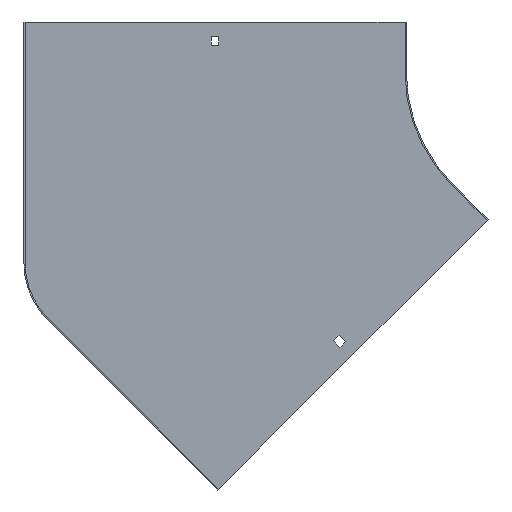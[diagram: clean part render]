
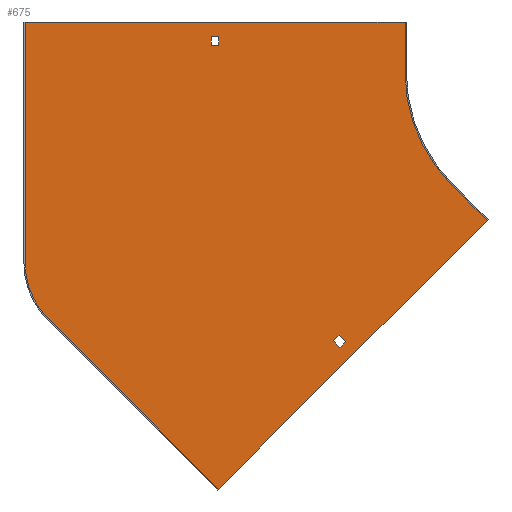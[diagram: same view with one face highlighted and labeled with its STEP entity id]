
A CAD part, front view. The second image highlights one B-rep face of the part: STEP entity #675.
In plain terms, the highlighted planar face has unit normal (0, -1, 0).
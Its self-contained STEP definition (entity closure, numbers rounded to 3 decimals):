
#1 = ORIENTED_EDGE ( 'NONE', *, *, #242, .T. ) ;
#6 = ORIENTED_EDGE ( 'NONE', *, *, #562, .F. ) ;
#11 = DIRECTION ( 'NONE',  ( 1., 0., 0. ) ) ;
#13 = LINE ( 'NONE', #352, #202 ) ;
#17 = VECTOR ( 'NONE', #602, 1000. ) ;
#24 = DIRECTION ( 'NONE',  ( -0.707, 0., 0.707 ) ) ;
#26 = LINE ( 'NONE', #222, #654 ) ;
#29 = CARTESIAN_POINT ( 'NONE',  ( -425., -1., 40. ) ) ;
#46 = EDGE_CURVE ( 'NONE', #259, #260, #193, .T. ) ;
#47 = VECTOR ( 'NONE', #24, 1000. ) ;
#51 = CARTESIAN_POINT ( 'NONE',  ( -172.181, -1., -212.486 ) ) ;
#57 = VERTEX_POINT ( 'NONE', #831 ) ;
#67 = VERTEX_POINT ( 'NONE', #432 ) ;
#69 = VERTEX_POINT ( 'NONE', #427 ) ;
#72 = EDGE_CURVE ( 'NONE', #528, #130, #215, .T. ) ;
#75 = LINE ( 'NONE', #261, #693 ) ;
#87 = LINE ( 'NONE', #621, #790 ) ;
#109 = VECTOR ( 'NONE', #114, 1000. ) ;
#114 = DIRECTION ( 'NONE',  ( 0., 0., -1. ) ) ;
#125 = ORIENTED_EDGE ( 'NONE', *, *, #126, .F. ) ;
#126 = EDGE_CURVE ( 'NONE', #319, #791, #687, .T. ) ;
#130 = VERTEX_POINT ( 'NONE', #500 ) ;
#131 = DIRECTION ( 'NONE',  ( 0., -1., 0. ) ) ;
#132 = ORIENTED_EDGE ( 'NONE', *, *, #46, .F. ) ;
#135 = ORIENTED_EDGE ( 'NONE', *, *, #647, .F. ) ;
#139 = ORIENTED_EDGE ( 'NONE', *, *, #351, .F. ) ;
#147 = LINE ( 'NONE', #476, #491 ) ;
#153 = DIRECTION ( 'NONE',  ( 0., -1., 0. ) ) ;
#158 = PLANE ( 'NONE',  #546 ) ;
#164 = CARTESIAN_POINT ( 'NONE',  ( -177.13, -1., -207.536 ) ) ;
#176 = ORIENTED_EDGE ( 'NONE', *, *, #72, .T. ) ;
#193 = LINE ( 'NONE', #466, #368 ) ;
#199 = CARTESIAN_POINT ( 'NONE',  ( -272., -1., 21.5 ) ) ;
#201 = CARTESIAN_POINT ( 'NONE',  ( -125., -1., 0. ) ) ;
#202 = VECTOR ( 'NONE', #804, 1000. ) ;
#203 = ORIENTED_EDGE ( 'NONE', *, *, #558, .F. ) ;
#215 = LINE ( 'NONE', #436, #254 ) ;
#221 = VECTOR ( 'NONE', #11, 1000. ) ;
#222 = CARTESIAN_POINT ( 'NONE',  ( -125., -1., 40. ) ) ;
#223 = DIRECTION ( 'NONE',  ( 0., 0., 1. ) ) ;
#224 = FACE_BOUND ( 'NONE', #331, .T. ) ;
#225 = VECTOR ( 'NONE', #826, 1000. ) ;
#228 = CARTESIAN_POINT ( 'NONE',  ( -272.236, -1., -328.805 ) ) ;
#230 = FACE_BOUND ( 'NONE', #326, .T. ) ;
#231 = AXIS2_PLACEMENT_3D ( 'NONE', #283, #131, #399 ) ;
#235 = CARTESIAN_POINT ( 'NONE',  ( 0., -1., 0. ) ) ;
#242 = EDGE_CURVE ( 'NONE', #803, #528, #580, .T. ) ;
#253 = ORIENTED_EDGE ( 'NONE', *, *, #401, .T. ) ;
#254 = VECTOR ( 'NONE', #823, 1000. ) ;
#259 = VERTEX_POINT ( 'NONE', #649 ) ;
#260 = VERTEX_POINT ( 'NONE', #51 ) ;
#261 = CARTESIAN_POINT ( 'NONE',  ( 0., -1., 28.5 ) ) ;
#279 = DIRECTION ( 'NONE',  ( -0.707, 0., -0.707 ) ) ;
#283 = CARTESIAN_POINT ( 'NONE',  ( 0., -1., 0. ) ) ;
#284 = CARTESIAN_POINT ( 'NONE',  ( -181.373, -1., -211.778 ) ) ;
#291 = CIRCLE ( 'NONE', #231, 125. ) ;
#310 = CARTESIAN_POINT ( 'NONE',  ( -272., -1., 28.5 ) ) ;
#319 = VERTEX_POINT ( 'NONE', #818 ) ;
#322 = CARTESIAN_POINT ( 'NONE',  ( -406.694, -1., -194.347 ) ) ;
#326 = EDGE_LOOP ( 'NONE', ( #740, #132, #404, #139 ) ) ;
#331 = EDGE_LOOP ( 'NONE', ( #644, #1, #176, #253 ) ) ;
#333 = LINE ( 'NONE', #741, #17 ) ;
#351 = EDGE_CURVE ( 'NONE', #702, #383, #87, .T. ) ;
#352 = CARTESIAN_POINT ( 'NONE',  ( -59.397, -1., -115.966 ) ) ;
#357 = CARTESIAN_POINT ( 'NONE',  ( -88.388, -1., -88.388 ) ) ;
#368 = VECTOR ( 'NONE', #397, 1000. ) ;
#371 = EDGE_CURVE ( 'NONE', #260, #702, #486, .T. ) ;
#375 = EDGE_CURVE ( 'NONE', #791, #717, #13, .T. ) ;
#383 = VERTEX_POINT ( 'NONE', #284 ) ;
#390 = CARTESIAN_POINT ( 'NONE',  ( -196.576, -1., -196.576 ) ) ;
#393 = VERTEX_POINT ( 'NONE', #201 ) ;
#397 = DIRECTION ( 'NONE',  ( 0.707, 0., 0.707 ) ) ;
#399 = DIRECTION ( 'NONE',  ( 0., 0., -1. ) ) ;
#401 = EDGE_CURVE ( 'NONE', #130, #69, #147, .T. ) ;
#404 = ORIENTED_EDGE ( 'NONE', *, *, #839, .F. ) ;
#416 = CARTESIAN_POINT ( 'NONE',  ( -426., -1., 40. ) ) ;
#421 = DIRECTION ( 'NONE',  ( 0., 1., 0. ) ) ;
#424 = DIRECTION ( 'NONE',  ( 0., 0., -1. ) ) ;
#427 = CARTESIAN_POINT ( 'NONE',  ( -278., -1., 28.5 ) ) ;
#431 = VECTOR ( 'NONE', #564, 1000. ) ;
#432 = CARTESIAN_POINT ( 'NONE',  ( -125., -1., 40. ) ) ;
#434 = FACE_OUTER_BOUND ( 'NONE', #729, .T. ) ;
#436 = CARTESIAN_POINT ( 'NONE',  ( 0., -1., 21.5 ) ) ;
#443 = CARTESIAN_POINT ( 'NONE',  ( -272.236, -1., -328.805 ) ) ;
#458 = VECTOR ( 'NONE', #657, 1000. ) ;
#466 = CARTESIAN_POINT ( 'NONE',  ( 20.153, -1., -20.153 ) ) ;
#467 = EDGE_CURVE ( 'NONE', #656, #67, #808, .T. ) ;
#476 = CARTESIAN_POINT ( 'NONE',  ( -278., -1., 0. ) ) ;
#479 = CARTESIAN_POINT ( 'NONE',  ( -362.5, -1., -150.152 ) ) ;
#486 = LINE ( 'NONE', #749, #47 ) ;
#489 = DIRECTION ( 'NONE',  ( 1., 0., 0. ) ) ;
#491 = VECTOR ( 'NONE', #223, 1000. ) ;
#500 = CARTESIAN_POINT ( 'NONE',  ( -278., -1., 21.5 ) ) ;
#516 = AXIS2_PLACEMENT_3D ( 'NONE', #479, #421, #817 ) ;
#520 = EDGE_CURVE ( 'NONE', #845, #57, #754, .T. ) ;
#528 = VERTEX_POINT ( 'NONE', #199 ) ;
#546 = AXIS2_PLACEMENT_3D ( 'NONE', #235, #153, #624 ) ;
#552 = EDGE_CURVE ( 'NONE', #69, #803, #75, .T. ) ;
#558 = EDGE_CURVE ( 'NONE', #393, #319, #291, .T. ) ;
#562 = EDGE_CURVE ( 'NONE', #57, #656, #333, .T. ) ;
#564 = DIRECTION ( 'NONE',  ( -0.707, 0., 0.707 ) ) ;
#576 = ORIENTED_EDGE ( 'NONE', *, *, #375, .F. ) ;
#580 = LINE ( 'NONE', #783, #109 ) ;
#602 = DIRECTION ( 'NONE',  ( 0., 0., 1. ) ) ;
#610 = ORIENTED_EDGE ( 'NONE', *, *, #681, .F. ) ;
#621 = CARTESIAN_POINT ( 'NONE',  ( 15.203, -1., -15.203 ) ) ;
#624 = DIRECTION ( 'NONE',  ( 0., 0., -1. ) ) ;
#644 = ORIENTED_EDGE ( 'NONE', *, *, #552, .T. ) ;
#647 = EDGE_CURVE ( 'NONE', #717, #845, #764, .T. ) ;
#649 = CARTESIAN_POINT ( 'NONE',  ( -176.423, -1., -216.728 ) ) ;
#654 = VECTOR ( 'NONE', #424, 1000. ) ;
#656 = VERTEX_POINT ( 'NONE', #29 ) ;
#657 = DIRECTION ( 'NONE',  ( 0.707, 0., -0.707 ) ) ;
#675 = ADVANCED_FACE ( 'NONE', ( #230, #434, #224 ), #158, .T. ) ;
#681 = EDGE_CURVE ( 'NONE', #67, #393, #26, .T. ) ;
#687 = LINE ( 'NONE', #357, #225 ) ;
#693 = VECTOR ( 'NONE', #489, 1000. ) ;
#702 = VERTEX_POINT ( 'NONE', #164 ) ;
#717 = VERTEX_POINT ( 'NONE', #228 ) ;
#729 = EDGE_LOOP ( 'NONE', ( #794, #6, #731, #135, #576, #125, #203, #610 ) ) ;
#731 = ORIENTED_EDGE ( 'NONE', *, *, #520, .F. ) ;
#740 = ORIENTED_EDGE ( 'NONE', *, *, #371, .F. ) ;
#741 = CARTESIAN_POINT ( 'NONE',  ( -425., -1., -150.152 ) ) ;
#749 = CARTESIAN_POINT ( 'NONE',  ( -192.333, -1., -192.333 ) ) ;
#754 = CIRCLE ( 'NONE', #516, 62.5 ) ;
#764 = LINE ( 'NONE', #443, #431 ) ;
#777 = CARTESIAN_POINT ( 'NONE',  ( -60.104, -1., -116.673 ) ) ;
#783 = CARTESIAN_POINT ( 'NONE',  ( -272., -1., 0. ) ) ;
#790 = VECTOR ( 'NONE', #279, 1000. ) ;
#791 = VERTEX_POINT ( 'NONE', #777 ) ;
#794 = ORIENTED_EDGE ( 'NONE', *, *, #467, .F. ) ;
#803 = VERTEX_POINT ( 'NONE', #310 ) ;
#804 = DIRECTION ( 'NONE',  ( -0.707, 0., -0.707 ) ) ;
#808 = LINE ( 'NONE', #416, #221 ) ;
#817 = DIRECTION ( 'NONE',  ( 0., 0., -1. ) ) ;
#818 = CARTESIAN_POINT ( 'NONE',  ( -88.388, -1., -88.388 ) ) ;
#823 = DIRECTION ( 'NONE',  ( -1., 0., 0. ) ) ;
#826 = DIRECTION ( 'NONE',  ( 0.707, 0., -0.707 ) ) ;
#831 = CARTESIAN_POINT ( 'NONE',  ( -425., -1., -150.152 ) ) ;
#839 = EDGE_CURVE ( 'NONE', #383, #259, #856, .T. ) ;
#845 = VERTEX_POINT ( 'NONE', #322 ) ;
#856 = LINE ( 'NONE', #390, #458 ) ;
